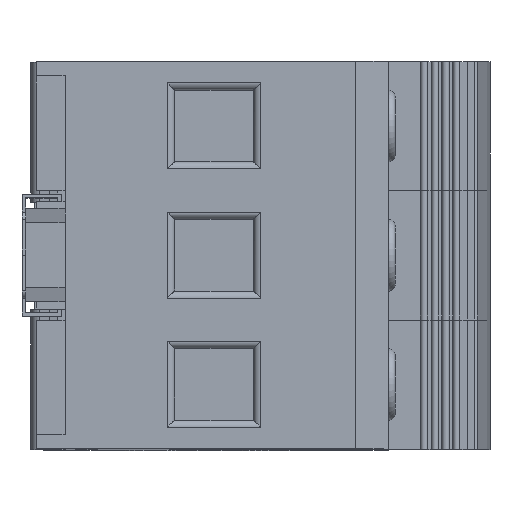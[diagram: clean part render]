
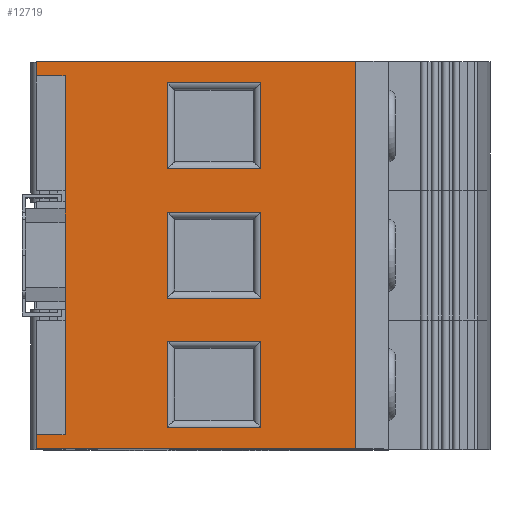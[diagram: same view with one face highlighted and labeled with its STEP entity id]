
A CAD part, top view. The second image highlights one B-rep face of the part: STEP entity #12719.
In plain terms, the highlighted planar face has unit normal (0, 0, 1).
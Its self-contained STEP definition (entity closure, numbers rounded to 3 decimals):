
#12546=CARTESIAN_POINT('',(-14.5,-27.,45.));
#12547=DIRECTION('',(0.,-0.,1.));
#12548=DIRECTION('',(-1.,0.,0.));
#12549=AXIS2_PLACEMENT_3D('',#12546,#12547,#12548);
#12550=PLANE('',#12549);
#12551=CARTESIAN_POINT('',(-0.25,24.,45.));
#12552=VERTEX_POINT('',#12551);
#12553=CARTESIAN_POINT('',(12.75,24.,45.));
#12554=VERTEX_POINT('',#12553);
#12555=CARTESIAN_POINT('',(-0.25,24.,45.));
#12556=DIRECTION('',(1.,-0.,-0.));
#12557=VECTOR('',#12556,13.);
#12558=LINE('',#12555,#12557);
#12559=EDGE_CURVE('',#12552,#12554,#12558,.T.);
#12560=ORIENTED_EDGE('',*,*,#12559,.T.);
#12561=CARTESIAN_POINT('',(12.75,12.,45.));
#12562=VERTEX_POINT('',#12561);
#12563=CARTESIAN_POINT('',(12.75,24.,45.));
#12564=DIRECTION('',(0.,-1.,-0.));
#12565=VECTOR('',#12564,12.);
#12566=LINE('',#12563,#12565);
#12567=EDGE_CURVE('',#12554,#12562,#12566,.T.);
#12568=ORIENTED_EDGE('',*,*,#12567,.T.);
#12569=CARTESIAN_POINT('',(-0.25,12.,45.));
#12570=VERTEX_POINT('',#12569);
#12571=CARTESIAN_POINT('',(12.75,12.,45.));
#12572=DIRECTION('',(-1.,0.,0.));
#12573=VECTOR('',#12572,13.);
#12574=LINE('',#12571,#12573);
#12575=EDGE_CURVE('',#12562,#12570,#12574,.T.);
#12576=ORIENTED_EDGE('',*,*,#12575,.T.);
#12577=CARTESIAN_POINT('',(-0.25,12.,45.));
#12578=DIRECTION('',(-0.,1.,0.));
#12579=VECTOR('',#12578,12.);
#12580=LINE('',#12577,#12579);
#12581=EDGE_CURVE('',#12570,#12552,#12580,.T.);
#12582=ORIENTED_EDGE('',*,*,#12581,.T.);
#12583=EDGE_LOOP('',(#12560,#12568,#12576,#12582));
#12584=FACE_BOUND('',#12583,.T.);
#12585=CARTESIAN_POINT('',(-0.25,6.,45.));
#12586=VERTEX_POINT('',#12585);
#12587=CARTESIAN_POINT('',(12.75,6.,45.));
#12588=VERTEX_POINT('',#12587);
#12589=CARTESIAN_POINT('',(-0.25,6.,45.));
#12590=DIRECTION('',(1.,-0.,-0.));
#12591=VECTOR('',#12590,13.);
#12592=LINE('',#12589,#12591);
#12593=EDGE_CURVE('',#12586,#12588,#12592,.T.);
#12594=ORIENTED_EDGE('',*,*,#12593,.T.);
#12595=CARTESIAN_POINT('',(12.75,-6.,45.));
#12596=VERTEX_POINT('',#12595);
#12597=CARTESIAN_POINT('',(12.75,6.,45.));
#12598=DIRECTION('',(0.,-1.,-0.));
#12599=VECTOR('',#12598,12.);
#12600=LINE('',#12597,#12599);
#12601=EDGE_CURVE('',#12588,#12596,#12600,.T.);
#12602=ORIENTED_EDGE('',*,*,#12601,.T.);
#12603=CARTESIAN_POINT('',(-0.25,-6.,45.));
#12604=VERTEX_POINT('',#12603);
#12605=CARTESIAN_POINT('',(12.75,-6.,45.));
#12606=DIRECTION('',(-1.,0.,0.));
#12607=VECTOR('',#12606,13.);
#12608=LINE('',#12605,#12607);
#12609=EDGE_CURVE('',#12596,#12604,#12608,.T.);
#12610=ORIENTED_EDGE('',*,*,#12609,.T.);
#12611=CARTESIAN_POINT('',(-0.25,-6.,45.));
#12612=DIRECTION('',(-0.,1.,0.));
#12613=VECTOR('',#12612,12.);
#12614=LINE('',#12611,#12613);
#12615=EDGE_CURVE('',#12604,#12586,#12614,.T.);
#12616=ORIENTED_EDGE('',*,*,#12615,.T.);
#12617=EDGE_LOOP('',(#12594,#12602,#12610,#12616));
#12618=FACE_BOUND('',#12617,.T.);
#12619=CARTESIAN_POINT('',(-0.25,-12.,45.));
#12620=VERTEX_POINT('',#12619);
#12621=CARTESIAN_POINT('',(12.75,-12.,45.));
#12622=VERTEX_POINT('',#12621);
#12623=CARTESIAN_POINT('',(-0.25,-12.,45.));
#12624=DIRECTION('',(1.,-0.,-0.));
#12625=VECTOR('',#12624,13.);
#12626=LINE('',#12623,#12625);
#12627=EDGE_CURVE('',#12620,#12622,#12626,.T.);
#12628=ORIENTED_EDGE('',*,*,#12627,.T.);
#12629=CARTESIAN_POINT('',(12.75,-24.,45.));
#12630=VERTEX_POINT('',#12629);
#12631=CARTESIAN_POINT('',(12.75,-12.,45.));
#12632=DIRECTION('',(0.,-1.,-0.));
#12633=VECTOR('',#12632,12.);
#12634=LINE('',#12631,#12633);
#12635=EDGE_CURVE('',#12622,#12630,#12634,.T.);
#12636=ORIENTED_EDGE('',*,*,#12635,.T.);
#12637=CARTESIAN_POINT('',(-0.25,-24.,45.));
#12638=VERTEX_POINT('',#12637);
#12639=CARTESIAN_POINT('',(12.75,-24.,45.));
#12640=DIRECTION('',(-1.,0.,0.));
#12641=VECTOR('',#12640,13.);
#12642=LINE('',#12639,#12641);
#12643=EDGE_CURVE('',#12630,#12638,#12642,.T.);
#12644=ORIENTED_EDGE('',*,*,#12643,.T.);
#12645=CARTESIAN_POINT('',(-0.25,-24.,45.));
#12646=DIRECTION('',(-0.,1.,0.));
#12647=VECTOR('',#12646,12.);
#12648=LINE('',#12645,#12647);
#12649=EDGE_CURVE('',#12638,#12620,#12648,.T.);
#12650=ORIENTED_EDGE('',*,*,#12649,.T.);
#12651=EDGE_LOOP('',(#12628,#12636,#12644,#12650));
#12652=FACE_BOUND('',#12651,.T.);
#12653=CARTESIAN_POINT('',(-18.5,27.,45.));
#12654=VERTEX_POINT('',#12653);
#12655=CARTESIAN_POINT('',(26.,27.,45.));
#12656=VERTEX_POINT('',#12655);
#12657=CARTESIAN_POINT('',(-18.5,27.,45.));
#12658=DIRECTION('',(1.,-0.,-0.));
#12659=VECTOR('',#12658,44.5);
#12660=LINE('',#12657,#12659);
#12661=EDGE_CURVE('',#12654,#12656,#12660,.T.);
#12662=ORIENTED_EDGE('',*,*,#12661,.F.);
#12663=CARTESIAN_POINT('',(-18.5,25.,45.));
#12664=VERTEX_POINT('',#12663);
#12665=CARTESIAN_POINT('',(-18.5,27.,45.));
#12666=DIRECTION('',(0.,-1.,-0.));
#12667=VECTOR('',#12666,2.);
#12668=LINE('',#12665,#12667);
#12669=EDGE_CURVE('',#12654,#12664,#12668,.T.);
#12670=ORIENTED_EDGE('',*,*,#12669,.T.);
#12671=CARTESIAN_POINT('',(-14.5,25.,45.));
#12672=VERTEX_POINT('',#12671);
#12673=CARTESIAN_POINT('',(-18.5,25.,45.));
#12674=DIRECTION('',(1.,-0.,-0.));
#12675=VECTOR('',#12674,4.);
#12676=LINE('',#12673,#12675);
#12677=EDGE_CURVE('',#12664,#12672,#12676,.T.);
#12678=ORIENTED_EDGE('',*,*,#12677,.T.);
#12679=CARTESIAN_POINT('',(-14.5,-25.,45.));
#12680=VERTEX_POINT('',#12679);
#12681=CARTESIAN_POINT('',(-14.5,-25.,45.));
#12682=DIRECTION('',(-0.,1.,0.));
#12683=VECTOR('',#12682,50.);
#12684=LINE('',#12681,#12683);
#12685=EDGE_CURVE('',#12680,#12672,#12684,.T.);
#12686=ORIENTED_EDGE('',*,*,#12685,.F.);
#12687=CARTESIAN_POINT('',(-18.5,-25.,45.));
#12688=VERTEX_POINT('',#12687);
#12689=CARTESIAN_POINT('',(-18.5,-25.,45.));
#12690=DIRECTION('',(1.,-0.,-0.));
#12691=VECTOR('',#12690,4.);
#12692=LINE('',#12689,#12691);
#12693=EDGE_CURVE('',#12688,#12680,#12692,.T.);
#12694=ORIENTED_EDGE('',*,*,#12693,.F.);
#12695=CARTESIAN_POINT('',(-18.5,-27.,45.));
#12696=VERTEX_POINT('',#12695);
#12697=CARTESIAN_POINT('',(-18.5,-25.,45.));
#12698=DIRECTION('',(0.,-1.,-0.));
#12699=VECTOR('',#12698,2.);
#12700=LINE('',#12697,#12699);
#12701=EDGE_CURVE('',#12688,#12696,#12700,.T.);
#12702=ORIENTED_EDGE('',*,*,#12701,.T.);
#12703=CARTESIAN_POINT('',(26.,-27.,45.));
#12704=VERTEX_POINT('',#12703);
#12705=CARTESIAN_POINT('',(-18.5,-27.,45.));
#12706=DIRECTION('',(1.,-0.,-0.));
#12707=VECTOR('',#12706,44.5);
#12708=LINE('',#12705,#12707);
#12709=EDGE_CURVE('',#12696,#12704,#12708,.T.);
#12710=ORIENTED_EDGE('',*,*,#12709,.T.);
#12711=CARTESIAN_POINT('',(26.,-27.,45.));
#12712=DIRECTION('',(-0.,1.,0.));
#12713=VECTOR('',#12712,54.);
#12714=LINE('',#12711,#12713);
#12715=EDGE_CURVE('',#12704,#12656,#12714,.T.);
#12716=ORIENTED_EDGE('',*,*,#12715,.T.);
#12717=EDGE_LOOP('',(#12662,#12670,#12678,#12686,#12694,#12702,#12710,#12716));
#12718=FACE_BOUND('',#12717,.T.);
#12719=ADVANCED_FACE('',(#12584,#12618,#12652,#12718),#12550,.T.);
